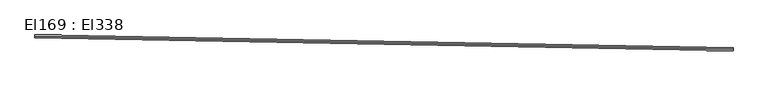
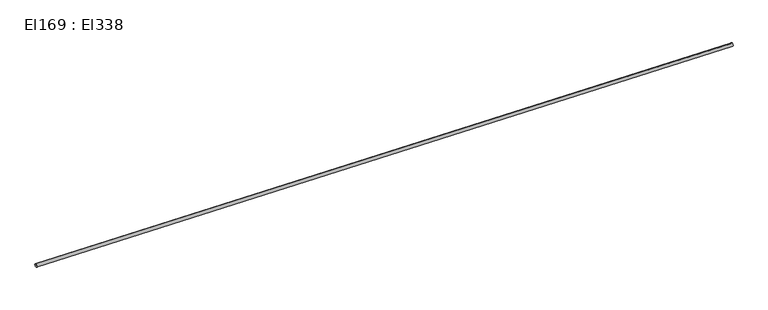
"""IFC4 building model written with IfcOpenShell, lengths in millimetres: cable carrier segment geometry, El169 : El338."""

from ifc_helpers import new_model, si_unit, point, frame, frame_2d, origin, place, context, project, spatial, circle_curve, trimmed, segment, composite_curve, outline, extrude, source, transform, mapped, element, save


def el169_el338_a9e14a57(model_context):
    return source(origin(), model_context, "Body", "SweptSolid", [
        extrude(outline(composite_curve([segment(trimmed(circle_curve(frame_2d((0.0, -9.5)), 9.5), [point((0.0, -19.0))], [point((0.0, 0.0))], False, "CARTESIAN"), True, "CONTINUOUS"), segment(trimmed(circle_curve(frame_2d((0.0, -9.5)), 9.5), [point((0.0, 0.0))], [point((0.0, -19.0))], False, "CARTESIAN"), True, "CONTINUOUS")], self_intersect=False)), frame((27021.1246511, -860.6091255, 1509.5), z_axis=(-0.9998306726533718, 0.018401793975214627, 0.0), x_axis=(-0.018401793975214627, -0.9998306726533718, 0.0)), (0.0, 0.0, 1.0), 4316.02),
    ])


if __name__ == "__main__":
    model = new_model("IFC4")
    model_context = context("Model", 3, world=origin())
    ifc_project = project(units=[si_unit("LENGTHUNIT", "METRE", prefix="MILLI")], contexts=[model_context])
    site = spatial("IfcSite", under=ifc_project)
    building = spatial("IfcBuilding", under=site)
    placement = place(None, origin())
    el169_el338_shape = el169_el338_a9e14a57(model_context)
    element("IfcCableCarrierSegment", 1, ObjectType="El169 : El338", at=placement, inside=building, context=model_context, shape_type="MappedRepresentation", body=[
        mapped(el169_el338_shape, transform((0.0, 0.0, 0.0), x_axis=(1.0, 0.0, 0.0), y_axis=(0.0, 1.0, 0.0), z_axis=(0.0, 0.0, 1.0))),
    ])
    save(model, "model.ifc")
